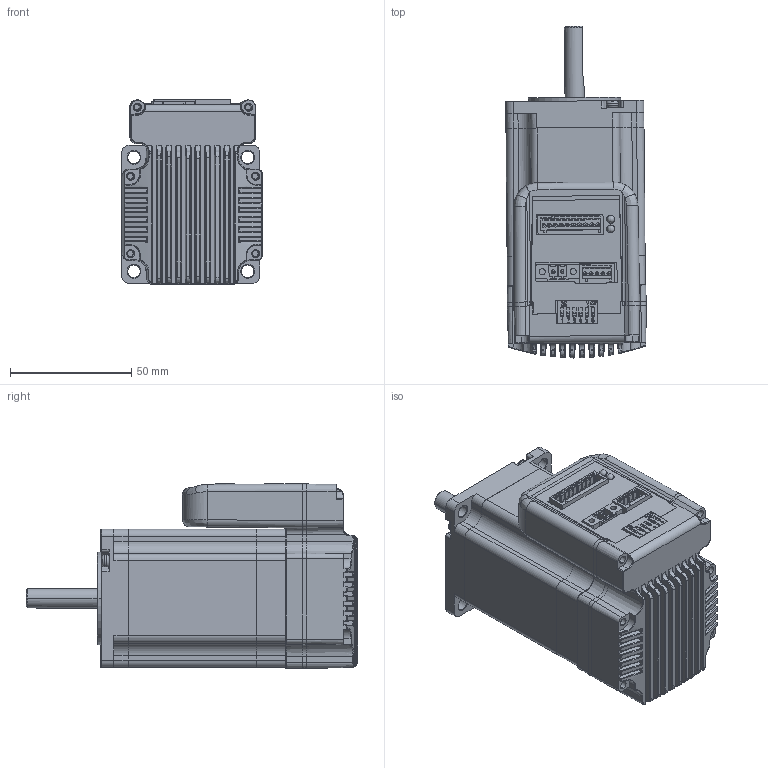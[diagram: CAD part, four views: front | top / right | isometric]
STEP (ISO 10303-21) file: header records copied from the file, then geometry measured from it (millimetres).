
FILE_DESCRIPTION (( 'STEP AP214' ), '1' );
FILE_NAME ('23H276-083D.STEP', '2016-05-17T07:18:44', ( 'User' ), ( 'china' ), 'SwSTEP 2.0', 'SolidWorks 2010', '' );
FILE_SCHEMA (( 'AUTOMOTIVE_DESIGN' ));
Length unit declared in the file: millimetre
Products named in the file (28): Assem1_Insulator_2-2;Insulator_2; Assem1_Base_switch;Base_switch; Assem1_Insulator_2-3;Insulator_2; Assem1_Insulator_1;Insulator_1; Assem1_clip;clip_4; Assem1_clip;clip_3; Assem1_clip;clip_2; 蹟佪芛; 珨极趙祭輛奻裔; 儂旯; 祭輛綴裔; Assem1_Insulator_2;Insulator_2; Assem1_clip;clip_5; 錨璃1^23H276-083D; 57-P PCB; 23H276-083D; LED-D3G; LED-D3R; 57呿蝶耀; 2.5mm-10way-s; 57一体化散热器; 珨极趙醱啣1; 珨极趙匿鎢; 2way 3.81s; 2.5mm-5way-s; Assem1_clip;clip; Assem1_clip;clip_1; Assem1_Insulator_2-1;Insulator_2
Assembly tree (29 placements, depth 3):
  錨璃1^23H276-083D
  23H276-083D
    珨极趙醱啣1
    57一体化散热器
    57呿蝶耀
    蹟佪芛  x4
    LED-D3R
    57-P PCB
    珨极趙匿鎢
      Assem1_clip;clip_1
      Assem1_clip;clip
      Assem1_Insulator_2-1;Insulator_2
      Assem1_clip;clip_5
      Assem1_Insulator_2-3;Insulator_2
      Assem1_Base_switch;Base_switch
      Assem1_clip;clip_4
      Assem1_Insulator_1;Insulator_1
      Assem1_clip;clip_2
      Assem1_Insulator_2;Insulator_2
      Assem1_Insulator_2-2;Insulator_2
      Assem1_clip;clip_3
    2way 3.81s
    2.5mm-5way-s
    2.5mm-10way-s
    儂旯
    LED-D3G
    珨极趙祭輛奻裔
    祭輛綴裔
Bounding box: 58.04 x 137.05 x 76.35 mm (x, y, z)
Volume: 279282.4 mm3; surface area: 97679.3 mm2
Topology: 33 solids, 38 shells, 2818 faces, 7405 edges, 4810 vertices
Faces by surface type: plane 1819, cylinder 683, bspline 238, cone 62, torus 16
Entity records: 116264 total; most frequent: CARTESIAN_POINT 32611, ORIENTED_EDGE 14398, DIRECTION 12352, EDGE_CURVE 7206, VECTOR 4914, LINE 4914, VERTEX_POINT 4690, AXIS2_PLACEMENT_3D 3719
